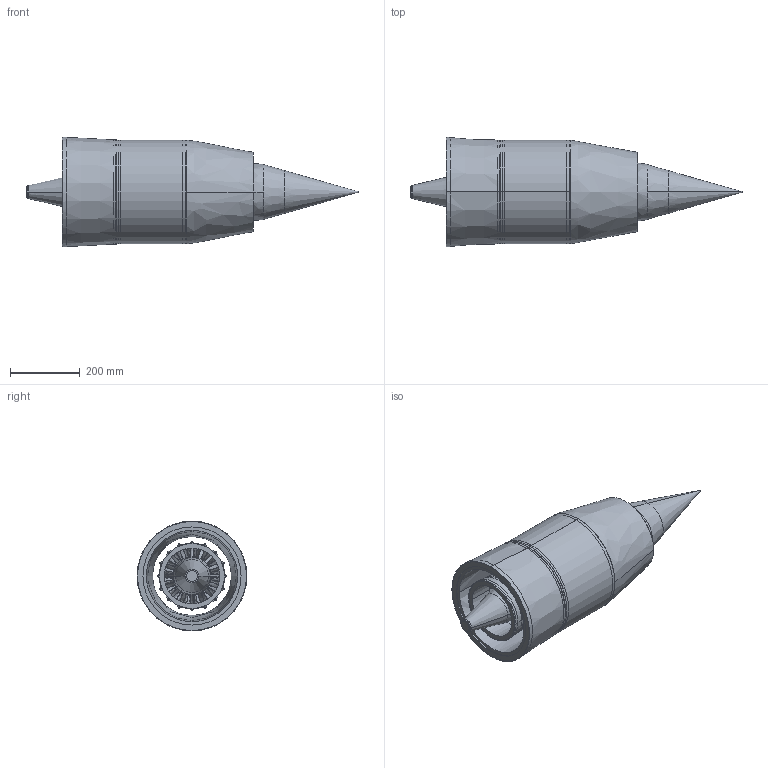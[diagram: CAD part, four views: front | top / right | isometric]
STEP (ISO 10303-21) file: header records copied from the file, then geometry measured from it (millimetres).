
FILE_DESCRIPTION (( 'STEP AP214' ), '1' );
FILE_NAME ('122DLm5p2068.STEP', '2020-09-16T14:58:37', ( '' ), ( '' ), 'SwSTEP 2.0', 'SolidWorks 2019', '' );
FILE_SCHEMA (( 'AUTOMOTIVE_DESIGN' ));
Length unit declared in the file: inch
Products named in the file (1): 122DLm5p2068
Bounding box: 950.51 x 314 x 314 mm (x, y, z)
Volume: 8294255.6 mm3; surface area: 2504240.7 mm2
Topology: 41 solids, 41 shells, 479 faces, 1116 edges, 740 vertices
Faces by surface type: bspline 270, plane 103, cylinder 68, cone 28, torus 10
Entity records: 96525 total; most frequent: CARTESIAN_POINT 81038, ORIENTED_EDGE 2232, EDGE_CURVE 1116, DIRECTION 928, B_SPLINE_CURVE_WITH_KNOTS 814, VERTEX_POINT 740, DIMENSIONAL_EXPONENTS 522, LENGTH_MEASURE_WITH_UNIT 522
